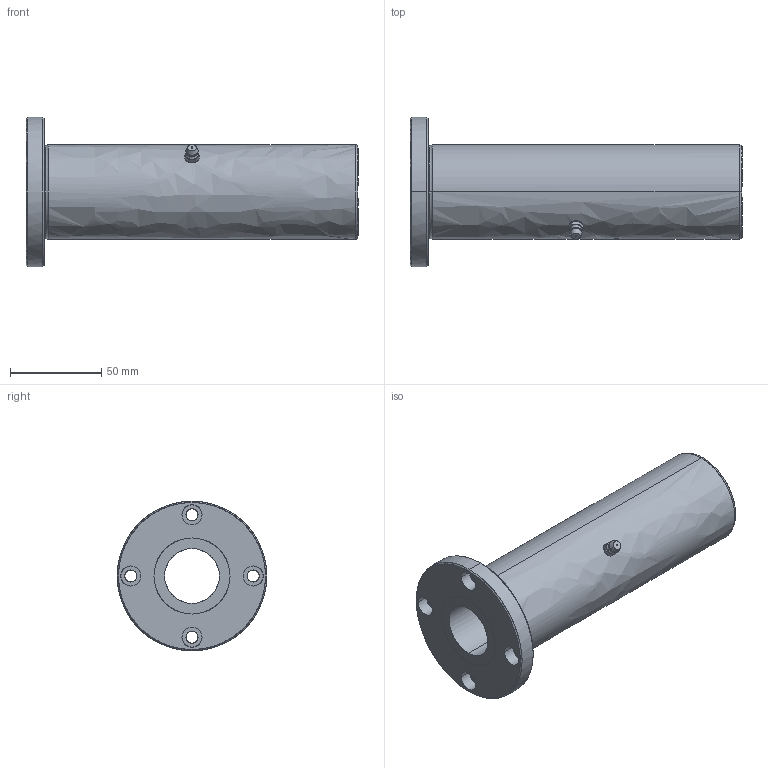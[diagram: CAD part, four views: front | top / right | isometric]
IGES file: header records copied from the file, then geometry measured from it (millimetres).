
Global section: file name: No Iges File Name specified; native system: AutoDesk Inventor R10; preprocessor: AutoDesk Inventor Iges Exporter R10; author: No Author specified; organization: No Organization specified; date: 20101211.161837; units: millimetre
Bounding box: 182 x 82 x 82 mm (x, y, z)
Surface area: 57846.8 mm2 (no closed solid volume)
Topology: 0 solids, 0 shells, 83 faces, 552 edges, 550 vertices
Faces by surface type: bspline 83
